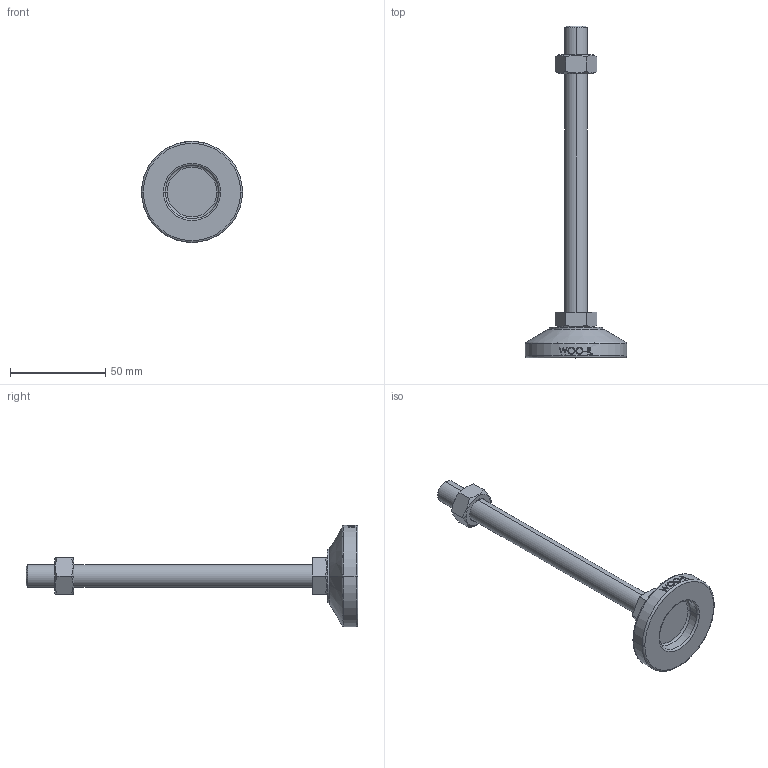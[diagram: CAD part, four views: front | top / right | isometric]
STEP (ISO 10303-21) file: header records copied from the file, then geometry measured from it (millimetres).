
FILE_DESCRIPTION (( 'STEP AP214' ), '1' );
FILE_NAME ('MF53-M12-150.step', '2021-02-03T08:16:25', ( '' ), ( '' ), 'SwSTEP 2.0', 'SolidWorks 2019', '' );
FILE_SCHEMA (( 'AUTOMOTIVE_DESIGN' ));
Length unit declared in the file: millimetre
Products named in the file (2): MF53-M12-150
Bounding box: 53 x 174 x 53 mm (x, y, z)
Volume: 45090.5 mm3; surface area: 14605 mm2
Topology: 3 solids, 3 shells, 106 faces, 243 edges, 154 vertices
Faces by surface type: plane 48, cylinder 18, bspline 16, cone 14, torus 10
Entity records: 4394 total; most frequent: CARTESIAN_POINT 2051, ORIENTED_EDGE 486, DIRECTION 439, EDGE_CURVE 243, AXIS2_PLACEMENT_3D 170, VERTEX_POINT 154, EDGE_LOOP 119, FACE_OUTER_BOUND 106
